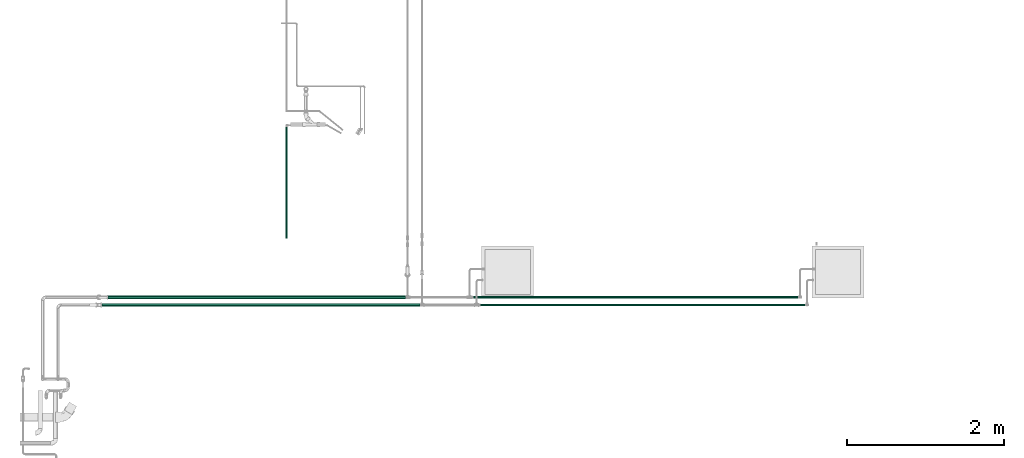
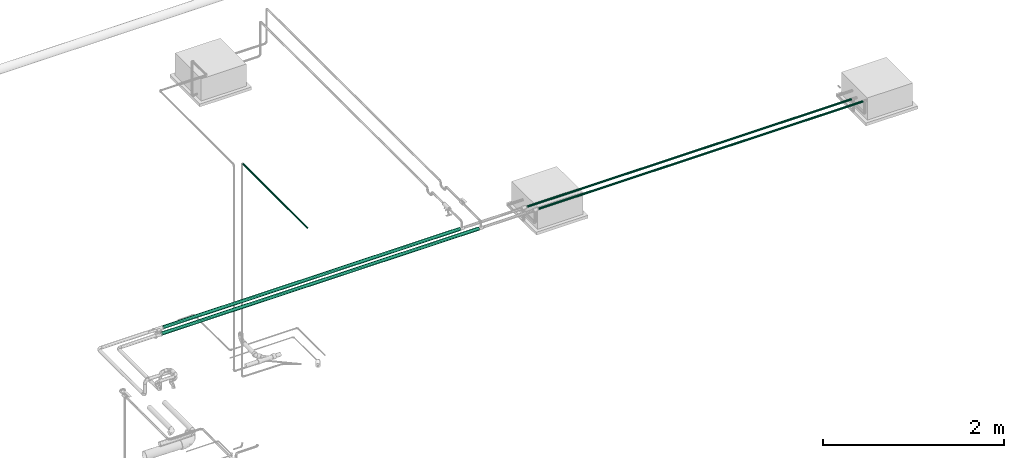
# One storey, part 5 of 35: 5 flow segments.
"""IFC2X3 building model written with IfcOpenShell, lengths in millimetres."""

from ifc_helpers import new_model, entity, si_unit, converted_unit, derived_unit, direction, frame, origin_with_axes, origin_2d_with_axis, place, context, subcontext, project, spatial, hollow_circle, extrude, source, transform, mapped, type_object, element, save


model = new_model("IFC2X3")

# Units and contexts
model_context = context("Model", 3, precision=0.01, world=frame((0.0, 4.29681676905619e-09, 0.0)), true_north=direction((4.01073788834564e-13, 1.0)))
plan_context = context("Plan", 3, precision=0.01, world=frame((0.0, 4.29681676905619e-09, 0.0)), true_north=direction((4.01073788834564e-13, 1.0)))
body_context = subcontext(model_context, "Body", "Model", "MODEL_VIEW")
ifc_project = project(units=[converted_unit("PLANEANGLEUNIT", "DEGREE", entity("IfcPositiveLengthMeasure", 0.0174532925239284), si_unit("PLANEANGLEUNIT", "RADIAN"), dimensions=[0, 0, 0, 0, 0, 0, 0]), si_unit("AREAUNIT", "SQUARE_METRE"), si_unit("LENGTHUNIT", "METRE", prefix="MILLI"), si_unit("MASSUNIT", "GRAM", prefix="KILO"), si_unit("POWERUNIT", "WATT"), si_unit("PRESSUREUNIT", "PASCAL"), si_unit("FORCEUNIT", "NEWTON", prefix="KILO"), si_unit("ELECTRICVOLTAGEUNIT", "VOLT"), si_unit("ELECTRICCURRENTUNIT", "AMPERE"), si_unit("THERMODYNAMICTEMPERATUREUNIT", "DEGREE_CELSIUS"), si_unit("TIMEUNIT", "SECOND"), si_unit("VOLUMEUNIT", "CUBIC_METRE"), derived_unit("LINEARVELOCITYUNIT", [(si_unit("LENGTHUNIT", "METRE"), 1), (si_unit("TIMEUNIT", "SECOND"), -1)]), derived_unit("VOLUMETRICFLOWRATEUNIT", [(si_unit("VOLUMEUNIT", "CUBIC_METRE"), 1), (si_unit("TIMEUNIT", "SECOND"), -1)]), derived_unit("THERMALTRANSMITTANCEUNIT", [(si_unit("POWERUNIT", "WATT"), 1), (si_unit("THERMODYNAMICTEMPERATUREUNIT", "KELVIN"), -1), (si_unit("AREAUNIT", "SQUARE_METRE"), -1)]), derived_unit("SOUNDPRESSUREUNIT", [(si_unit("PRESSUREUNIT", "PASCAL"), 1)])], contexts=[model_context, plan_context])

# Site, building, storey
site_placement = place(None, frame((0.0, -4.29681676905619e-09, 0.0), z_axis=(0.0, 0.0, 1.0), x_axis=(1.0, 0.0, 0.0)))
site = spatial("IfcSite", under=ifc_project, at=site_placement, Name="ENGM", CompositionType="ELEMENT")
building_placement = place(site_placement, frame((0.0, 4.29681676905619e-09, 0.0), z_axis=(0.0, 0.0, 1.0), x_axis=(1.0, 0.0, 0.0)))
building = spatial("IfcBuilding", under=site, at=building_placement, Name="TH", CompositionType="ELEMENT")
storey_placement = place(building_placement, frame((0.0, 0.0, 210200.0), z_axis=(0.0, 0.0, 1.0), x_axis=(1.0, 0.0, 0.0)))
storey = spatial("IfcBuildingStorey", under=building, at=storey_placement, Name="Nivå F - 0,7 m", CompositionType="ELEMENT", Elevation=210200.0)

# Flow segments
pipe_segment_type_1 = type_object("IfcPipeSegmentType", Name="Stålrør normaltykke", PredefinedType="RIGIDSEGMENT")
shared_shape_1 = source(origin_with_axes(), body_context, "Body", "SweptSolid", [
    extrude(hollow_circle(Radius=13.3, WallThickness=2.0, at=origin_2d_with_axis()), frame((0.0, 0.0, 0.0), z_axis=(1.0, 0.0, 0.0), x_axis=(0.0, 1.0, 0.0)), (0.0, 0.0, 1.0), 4130.8),
])
for number, where, z_axis, x_axis in (
    (1, (900868.47965, 481295.36097, 2978.79999999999), (0.0, 0.0, 1.0), (1.0, 0.0, 0.0)),
    (2, (900957.18846, 481196.37011, 2978.79999999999), (0.0, 0.0, 1.0), (1.0, 0.0, 0.0)),
):
    element("IfcFlowSegment", number, at=place(storey_placement, frame(where, z_axis=z_axis, x_axis=x_axis)), inside=storey, type_object=pipe_segment_type_1, Name="Stålrør normaltykke", context=body_context, shape_type="MappedRepresentation", body=[
        mapped(shared_shape_1, transform((0.0, 0.0, 0.0), scale=1.0)),
    ])
shared_shape_2 = source(origin_with_axes(), body_context, "Body", "SweptSolid", [
    extrude(hollow_circle(Radius=21.2, WallThickness=2.0, at=origin_2d_with_axis()), frame((0.0, 0.0, 0.0), z_axis=(1.0, 0.0, 0.0), x_axis=(0.0, 1.0, 0.0)), (0.0, 0.0, 1.0), 3781.0),
])
flow_segment_1_placement = place(storey_placement, frame((896229.1772, 481295.36097, 2978.79999999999), z_axis=(0.0, 0.0, 1.0), x_axis=(1.0, 0.0, 0.0)))
element("IfcFlowSegment", 3, at=flow_segment_1_placement, inside=storey, type_object=pipe_segment_type_1, Name="Stålrør normaltykke", context=body_context, shape_type="MappedRepresentation", body=[
    mapped(shared_shape_2, transform((0.0, 0.0, 0.0), scale=1.0)),
])
shared_shape_3 = source(origin_with_axes(), body_context, "Body", "SweptSolid", [
    extrude(hollow_circle(Radius=21.2, WallThickness=2.0, at=origin_2d_with_axis()), frame((0.0, 0.0, 0.0), z_axis=(1.0, 0.0, 0.0), x_axis=(0.0, 1.0, 0.0)), (0.0, 0.0, 1.0), 4040.1),
])
flow_segment_2_placement = place(storey_placement, frame((896154.27087, 481196.37011, 2978.79999999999), z_axis=(0.0, 0.0, 1.0), x_axis=(1.0, 0.0, 0.0)))
element("IfcFlowSegment", 4, at=flow_segment_2_placement, inside=storey, type_object=pipe_segment_type_1, Name="Stålrør normaltykke", context=body_context, shape_type="MappedRepresentation", body=[
    mapped(shared_shape_3, transform((0.0, 0.0, 0.0), scale=1.0)),
])
pipe_segment_type_2 = type_object("IfcPipeSegmentType", Name="Kobberrør", PredefinedType="RIGIDSEGMENT")
shared_shape_4 = source(origin_with_axes(), body_context, "Body", "SweptSolid", [
    extrude(hollow_circle(Radius=11.0, WallThickness=2.0, at=origin_2d_with_axis()), frame((0.0, 0.0, 0.0), z_axis=(1.0, 0.0, 0.0), x_axis=(0.0, 1.0, 0.0)), (0.0, 0.0, 1.0), 1421.0),
])
flow_segment_3_placement = place(storey_placement, frame((898499.99953, 482038.52017, 3070.08712000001), z_axis=(0.0, 0.0, 1.0), x_axis=(0.0, 1.0, 0.0)))
element("IfcFlowSegment", 5, at=flow_segment_3_placement, inside=storey, type_object=pipe_segment_type_2, Name="Kobberrør", context=body_context, shape_type="MappedRepresentation", body=[
    mapped(shared_shape_4, transform((0.0, 0.0, 0.0), scale=1.0)),
])

save(model, "model.ifc")
